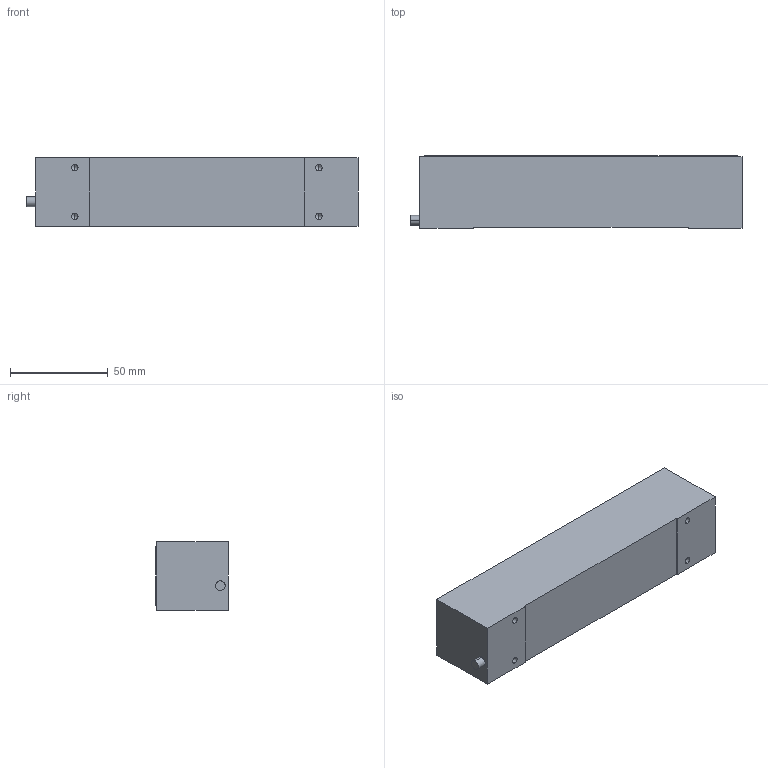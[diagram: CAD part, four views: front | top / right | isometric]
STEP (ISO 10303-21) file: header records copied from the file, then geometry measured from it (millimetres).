
FILE_DESCRIPTION (( 'STEP AP203' ), '1' );
FILE_NAME ('S22.U0S-AÍâÐÎ³ß´ç-24.10.28.STEP', '2024-10-28T06:55:09', ( '' ), ( '' ), 'SwSTEP 2.0', 'SolidWorks 2016', '' );
FILE_SCHEMA (( 'CONFIG_CONTROL_DESIGN' ));
Length unit declared in the file: millimetre
Products named in the file (1): S22.U0S-A俋倛喜渡-24.10.28
Bounding box: 170 x 37 x 35 mm (x, y, z)
Volume: 210939.7 mm3; surface area: 26892.6 mm2
Topology: 1 solids, 1 shells, 50 faces, 122 edges, 68 vertices
Faces by surface type: cylinder 18, cone 16, plane 16
Entity records: 1419 total; most frequent: DIRECTION 244, CARTESIAN_POINT 225, ORIENTED_EDGE 212, EDGE_CURVE 106, AXIS2_PLACEMENT_3D 87, VECTOR 70, LINE 70, VERTEX_POINT 68
